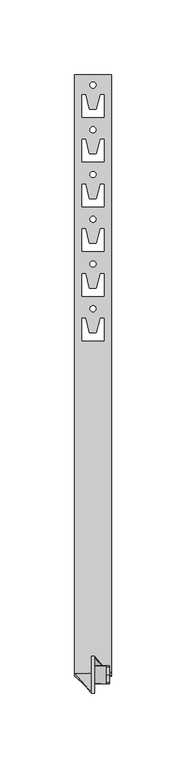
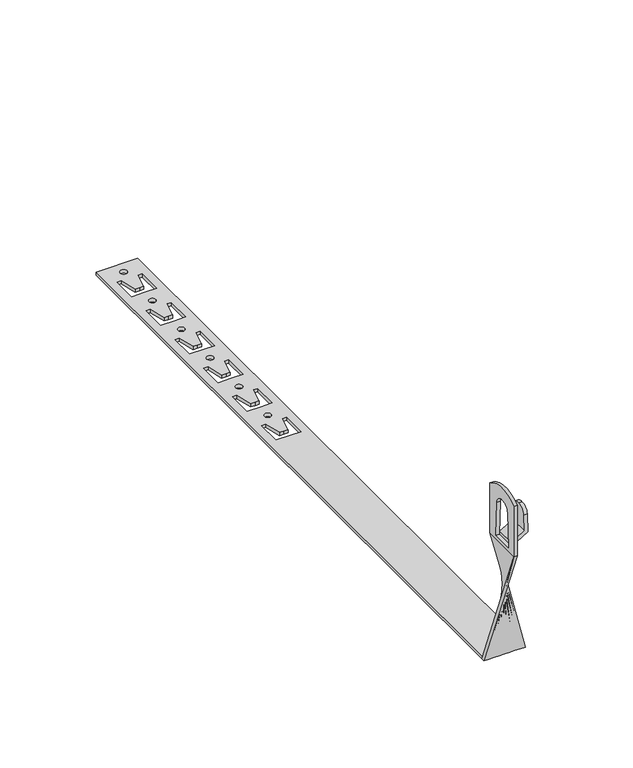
"""IFC4 building model written with IfcOpenShell, lengths in millimetres: proxy geometry, КНС_ДержательСкрученныйПодЧерепицу_DKC : ND2207CU_Медь_415 мм."""

from ifc_helpers import new_model, si_unit, point, frame, frame_2d, origin, origin_with_axes, place, context, project, spatial, polyline, circle_curve, trimmed, segment, composite_curve, outline, extrude, source, transform, mapped, element, save
from ifc_brep_helpers import plane_surface, cylinder_surface, revolved_surface, spline_surface, advanced_brep


def security_devices_8fedeb6c(model_context):
    return source(origin(), model_context, "Body", "SolidModel", [
        advanced_brep(
        [(1.0, 0.0, 100.874537), (1.0, 0.0, 69.0), (1.0, 25.0, 69.0), (1.0, 25.0, 100.874537), (1.0, 7.1354712, 92.6660817), (1.0, 12.5, 97.1674559), (1.0, 17.8645288, 92.6660817), (1.0, 19.0, 71.0), (1.0, 6.0, 71.0), (-1.0, 0.0, 100.874537), (-1.0, 25.0, 100.874537), (-1.0, 25.0, 69.0), (-1.0, 0.0, 69.0), (-1.0, 7.1354712, 92.6660817), (-1.0, 6.0, 71.0), (-1.0, 19.0, 71.0), (-1.0, 17.8645288, 92.6660817), (-1.0, 12.5, 97.1674559), (12.5, 13.5, 0.0), (12.5, 11.5, 0.0), (-12.5, 11.5, 0.0), (-12.5, 13.5, 0.0)],
        [
            (0, 1),
            (1, 2),
            (2, 3),
            (3, 0, circle_curve(frame((1.0, 12.5, 84.0), z_axis=(1.0, 0.0, 0.0), x_axis=(0.0, 1.0, 0.0)), 21.0)),
            (4, 5, circle_curve(frame((1.0, 11.9165352, 92.4155168), z_axis=(-1.0, 0.0, 0.0), x_axis=(0.0, 1.0, 0.0)), 4.7876253)),
            (5, 6, circle_curve(frame((1.0, 13.0834648, 92.4155168), z_axis=(-1.0, 0.0, 0.0), x_axis=(0.0, 1.0, 0.0)), 4.7876253)),
            (6, 7),
            (7, 8),
            (8, 4),
            (9, 10, circle_curve(frame((-1.0, 12.5, 84.0), z_axis=(-1.0, 0.0, 0.0), x_axis=(0.0, 1.0, 0.0)), 21.0)),
            (10, 11),
            (11, 12),
            (12, 9),
            (13, 14),
            (14, 15),
            (15, 16),
            (16, 17, circle_curve(frame((-1.0, 13.0834648, 92.4155168), z_axis=(1.0, 0.0, 0.0), x_axis=(0.0, 1.0, 0.0)), 4.7876253)),
            (17, 13, circle_curve(frame((-1.0, 11.9165352, 92.4155168), z_axis=(1.0, 0.0, 0.0), x_axis=(0.0, 1.0, 0.0)), 4.7876253)),
            (0, 9),
            (12, 1),
            (2, 11),
            (10, 3),
            (4, 13),
            (17, 5),
            (16, 6),
            (15, 7),
            (14, 8),
            (18, 19),
            (19, 20),
            (20, 21),
            (21, 18),
            (21, 12),
            (11, 18),
            (20, 1),
            (2, 19),
        ],
        [
            plane_surface(frame((1.0, 0.0, 65.0), z_axis=(1.0, 0.0, 0.0), x_axis=(0.0, 0.0, -1.0))),
            plane_surface(frame((-1.0, 0.0, 65.0), z_axis=(-1.0, 0.0, 0.0), x_axis=(0.0, 0.0, 1.0))),
            plane_surface(frame((1.0, 0.0, 100.874537), z_axis=(0.0, -1.0, 0.0), x_axis=(-1.0, 0.0, 0.0))),
            plane_surface(frame((1.0, 25.0, 69.0), z_axis=(0.0, 1.0, 0.0), x_axis=(-1.0, 0.0, 0.0))),
            cylinder_surface(frame((-1.0, 12.5, 84.0), z_axis=(1.0, 0.0, 0.0), x_axis=(0.0, 1.0, 0.0)), 21.0),
            revolved_surface(polyline([(-1.0, 16.7041605, 92.4155168), (1.0, 16.7041605, 92.4155168)]), (11.0, 11.9165352, 92.4155168), (-1.0, 0.0, 0.0)),
            revolved_surface(polyline([(-1.0, 17.8710901, 92.4155168), (1.0, 17.8710901, 92.4155168)]), (11.0, 13.0834648, 92.4155168), (-1.0, 0.0, 0.0)),
            plane_surface(frame((1.0, 17.8645288, 92.6660817), z_axis=(0.0, -0.9986295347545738, -0.0523359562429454), x_axis=(-1.0, 0.0, 0.0))),
            plane_surface(frame((1.0, 19.0, 71.0), z_axis=(0.0, 0.0, 1.0), x_axis=(-1.0, 0.0, 0.0))),
            plane_surface(frame((1.0, 6.0, 71.0), z_axis=(0.0, 0.9986295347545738, -0.052335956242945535), x_axis=(-1.0, 0.0, 0.0))),
            plane_surface(frame((0.0, 12.5, 0.0), z_axis=(0.0, 0.0, -1.0), x_axis=(0.0, 1.0, 0.0))),
            spline_surface(1, 1, [[(12.5, 13.5, 0.0), (-1.0, 25.0, 69.0)], [(-12.5, 13.5, 0.0), (-1.0, 0.0, 69.0)]], [2, 2], [2, 2], [0.0, 1.0], [0.0, 1.0]),
            spline_surface(1, 1, [[(-12.5, 13.5, 0.0), (-1.0, 0.0, 69.0)], [(-12.5, 11.5, 0.0), (1.0, 0.0, 69.0)]], [2, 2], [2, 2], [0.0, 1.0], [0.0, 1.0]),
            spline_surface(1, 1, [[(12.5, 11.5, 0.0), (1.0, 25.0, 69.0)], [(12.5, 13.5, 0.0), (-1.0, 25.0, 69.0)]], [2, 2], [2, 2], [0.0, 1.0], [0.0, 1.0]),
            spline_surface(1, 1, [[(-12.5, 11.5, 0.0), (1.0, 0.0, 69.0)], [(12.5, 11.5, 0.0), (1.0, 25.0, 69.0)]], [2, 2], [2, 2], [0.0, 1.0], [0.0, 1.0]),
        ],
        [
            (0, [[1, 2, 3, 4], [5, 6, 7, 8, 9]]),
            (1, [[10, 11, 12, 13], [14, 15, 16, 17, 18]]),
            (2, [[-1, 19, -13, 20]]),
            (3, [[-3, 21, -11, 22]]),
            (4, [[-4, -22, -10, -19]]),
            (5, [[-5, 23, -18, 24]]),
            (6, [[-6, -24, -17, 25]]),
            (7, [[-7, -25, -16, 26]]),
            (8, [[-8, -26, -15, 27]]),
            (9, [[-9, -27, -14, -23]]),
            (10, [[28, 29, 30, 31]]),
            (11, [[-31, 32, -12, 33]]),
            (12, [[-30, 34, -20, -32]]),
            (13, [[-28, -33, -21, 35]]),
            (14, [[-29, -35, -2, -34]]),
        ],
    ),
        advanced_brep(
        [(11.0, 17.8645288, 87.6660817), (11.0, 12.5, 92.1674559), (11.0, 7.1354712, 87.6660817), (11.0, 6.5646154, 76.7735027), (11.0, 18.4353846, 76.7735027), (1.0, 18.7379611, 71.0), (1.0, 6.2620389, 71.0), (1.0, 6.3830695, 73.3094011), (1.0, 18.6169305, 73.3094011), (9.0, 7.1354712, 87.6660817), (9.0, 6.6251306, 77.9282032), (9.0, 18.3748694, 77.9282032), (9.0, 17.8645288, 87.6660817), (9.0, 12.5, 92.1674559)],
        [
            (0, 1, circle_curve(frame((11.0, 13.0834648, 87.4155168), z_axis=(1.0, 0.0, 0.0), x_axis=(0.0, 1.0, 0.0)), 4.7876253)),
            (1, 2, circle_curve(frame((11.0, 11.9165352, 87.4155168), z_axis=(1.0, 0.0, 0.0), x_axis=(0.0, 1.0, 0.0)), 4.7876253)),
            (2, 3),
            (3, 4),
            (4, 0),
            (5, 6),
            (6, 7),
            (7, 8),
            (8, 5),
            (2, 9),
            (9, 10),
            (10, 7),
            (6, 3),
            (4, 5),
            (8, 11),
            (11, 12),
            (12, 0),
            (12, 13, circle_curve(frame((9.0, 13.0834648, 87.4155168), z_axis=(1.0, 0.0, 0.0), x_axis=(0.0, 1.0, 0.0)), 4.7876253)),
            (13, 1),
            (13, 9, circle_curve(frame((9.0, 11.9165352, 87.4155168), z_axis=(1.0, 0.0, 0.0), x_axis=(0.0, 1.0, 0.0)), 4.7876253)),
            (10, 11),
        ],
        [
            plane_surface(frame((11.0, 6.2585459, 70.9333499), z_axis=(1.0, 0.0, 0.0), x_axis=(0.0, -0.05233595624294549, -0.9986295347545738))),
            plane_surface(frame((1.0, 6.2585459, 70.9333499), z_axis=(-1.0, 0.0, 0.0), x_axis=(0.0, 0.05233595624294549, 0.9986295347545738))),
            plane_surface(frame((11.0, 7.1354712, 87.6660817), z_axis=(0.0, -0.9986295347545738, 0.05233595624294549), x_axis=(-1.0, 0.0, 0.0))),
            plane_surface(frame((11.0, 18.7379611, 71.0), z_axis=(0.0, 0.9986295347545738, 0.05233595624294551), x_axis=(-1.0, 0.0, 0.0))),
            cylinder_surface(frame((1.0, 13.0834648, 87.4155168), z_axis=(1.0, 0.0, 0.0), x_axis=(0.0, 1.0, 0.0)), 4.7876253),
            cylinder_surface(frame((1.0, 11.9165352, 87.4155168), z_axis=(1.0, 0.0, 0.0), x_axis=(0.0, 1.0, 0.0)), 4.7876253),
            plane_surface(frame((1.0, 25.0, 71.0), z_axis=(0.500000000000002, 0.0, -0.8660254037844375), x_axis=(0.0, -1.0, 0.0))),
            plane_surface(frame((9.0, 25.0, 77.9282032), z_axis=(-0.5000000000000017, 0.0, 0.8660254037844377), x_axis=(0.0, -1.0, 0.0))),
            plane_surface(frame((9.0, 25.0, 102.9372685), z_axis=(-1.0, 0.0, 0.0), x_axis=(0.0, -1.0, 0.0))),
        ],
        [
            (0, [[1, 2, 3, 4, 5]]),
            (1, [[6, 7, 8, 9]]),
            (2, [[-3, 10, 11, 12, -7, 13]]),
            (3, [[-5, 14, -9, 15, 16, 17]]),
            (4, [[-1, -17, 18, 19]]),
            (5, [[-2, -19, 20, -10]]),
            (6, [[-4, -13, -6, -14]]),
            (7, [[21, -15, -8, -12]]),
            (8, [[-21, -11, -20, -18, -16]]),
        ],
    ),
        extrude(outline(polyline([(12.5, 415.0), (12.5, 13.5), (-12.5, 13.5), (-12.5, 415.0), (12.5, 415.0)]), holes=[composite_curve([segment(trimmed(circle_curve(frame_2d((0.0, 407.9763791)), 2.0), [point((-2.0, 407.9763791))], [point((2.0, 407.9763791))], True, "CARTESIAN"), True, "CONTINUOUS"), segment(trimmed(circle_curve(frame_2d((0.0, 407.9763791)), 2.0), [point((2.0, 407.9763791))], [point((-2.0, 407.9763791))], True, "CARTESIAN"), True, "CONTINUOUS")], self_intersect=False), polyline([(-7.5, 386.5), (0.0, 386.5), (7.5, 386.5), (7.5, 401.5981413), (5.0452497, 401.5981413), (2.5276553, 391.5), (0.0, 391.5), (-2.5276553, 391.5), (-5.0452497, 401.5981413), (-7.5, 401.5981413), (-7.5, 386.5)]), composite_curve([segment(trimmed(circle_curve(frame_2d((0.0, 377.9763791)), 2.0), [point((-2.0, 377.9763791))], [point((2.0, 377.9763791))], True, "CARTESIAN"), True, "CONTINUOUS"), segment(trimmed(circle_curve(frame_2d((0.0, 377.9763791)), 2.0), [point((2.0, 377.9763791))], [point((-2.0, 377.9763791))], True, "CARTESIAN"), True, "CONTINUOUS")], self_intersect=False), polyline([(-7.5, 356.5), (0.0, 356.5), (7.5, 356.5), (7.5, 371.5981413), (5.0452497, 371.5981413), (2.5276553, 361.5), (0.0, 361.5), (-2.5276553, 361.5), (-5.0452497, 371.5981413), (-7.5, 371.5981413), (-7.5, 356.5)]), composite_curve([segment(trimmed(circle_curve(frame_2d((0.0, 347.9763791)), 2.0), [point((-2.0, 347.9763791))], [point((2.0, 347.9763791))], True, "CARTESIAN"), True, "CONTINUOUS"), segment(trimmed(circle_curve(frame_2d((0.0, 347.9763791)), 2.0), [point((2.0, 347.9763791))], [point((-2.0, 347.9763791))], True, "CARTESIAN"), True, "CONTINUOUS")], self_intersect=False), polyline([(-7.5, 326.5), (0.0, 326.5), (7.5, 326.5), (7.5, 341.5981413), (5.0452497, 341.5981413), (2.5276553, 331.5), (0.0, 331.5), (-2.5276553, 331.5), (-5.0452497, 341.5981413), (-7.5, 341.5981413), (-7.5, 326.5)]), composite_curve([segment(trimmed(circle_curve(frame_2d((0.0, 317.9763791)), 2.0), [point((-2.0, 317.9763791))], [point((2.0, 317.9763791))], True, "CARTESIAN"), True, "CONTINUOUS"), segment(trimmed(circle_curve(frame_2d((0.0, 317.9763791)), 2.0), [point((2.0, 317.9763791))], [point((-2.0, 317.9763791))], True, "CARTESIAN"), True, "CONTINUOUS")], self_intersect=False), polyline([(-7.5, 296.5), (0.0, 296.5), (7.5, 296.5), (7.5, 311.5981413), (5.0452497, 311.5981413), (2.5276553, 301.5), (0.0, 301.5), (-2.5276553, 301.5), (-5.0452497, 311.5981413), (-7.5, 311.5981413), (-7.5, 296.5)]), composite_curve([segment(trimmed(circle_curve(frame_2d((0.0, 287.9763791)), 2.0), [point((-2.0, 287.9763791))], [point((2.0, 287.9763791))], True, "CARTESIAN"), True, "CONTINUOUS"), segment(trimmed(circle_curve(frame_2d((0.0, 287.9763791)), 2.0), [point((2.0, 287.9763791))], [point((-2.0, 287.9763791))], True, "CARTESIAN"), True, "CONTINUOUS")], self_intersect=False), polyline([(-7.5, 266.5), (0.0, 266.5), (7.5, 266.5), (7.5, 281.5981413), (5.0452497, 281.5981413), (2.5276553, 271.5), (0.0, 271.5), (-2.5276553, 271.5), (-5.0452497, 281.5981413), (-7.5, 281.5981413), (-7.5, 266.5)]), composite_curve([segment(trimmed(circle_curve(frame_2d((0.0, 257.9763791)), 2.0), [point((-2.0, 257.9763791))], [point((2.0, 257.9763791))], True, "CARTESIAN"), True, "CONTINUOUS"), segment(trimmed(circle_curve(frame_2d((0.0, 257.9763791)), 2.0), [point((2.0, 257.9763791))], [point((-2.0, 257.9763791))], True, "CARTESIAN"), True, "CONTINUOUS")], self_intersect=False), polyline([(-7.5, 236.5), (0.0, 236.5), (7.5, 236.5), (7.5, 251.5981413), (5.0452497, 251.5981413), (2.5276553, 241.5), (0.0, 241.5), (-2.5276553, 241.5), (-5.0452497, 251.5981413), (-7.5, 251.5981413), (-7.5, 236.5)])]), origin_with_axes(), (0.0, 0.0, 1.0), 2.0),
    ])


if __name__ == "__main__":
    model = new_model("IFC4")
    model_context = context("Model", 3, world=origin())
    ifc_project = project(units=[si_unit("LENGTHUNIT", "METRE", prefix="MILLI")], contexts=[model_context])
    site = spatial("IfcSite", under=ifc_project)
    building = spatial("IfcBuilding", under=site)
    placement = place(None, origin())
    security_devices_shape = security_devices_8fedeb6c(model_context)
    element("IfcBuildingElementProxy", 1, Name="КНС_ДержательСкрученныйПодЧерепицу_DKC : ND2207CU_Медь_415 мм", ObjectType="КНС_ДержательСкрученныйПодЧерепицу_DKC : ND2207CU_Медь_415 мм", at=placement, inside=building, context=model_context, shape_type="MappedRepresentation", body=[
        mapped(security_devices_shape, transform((0.0, 0.0, 0.0), x_axis=(1.0, 0.0, 0.0), y_axis=(0.0, 1.0, 0.0), z_axis=(0.0, 0.0, 1.0))),
    ])
    save(model, "model.ifc")
